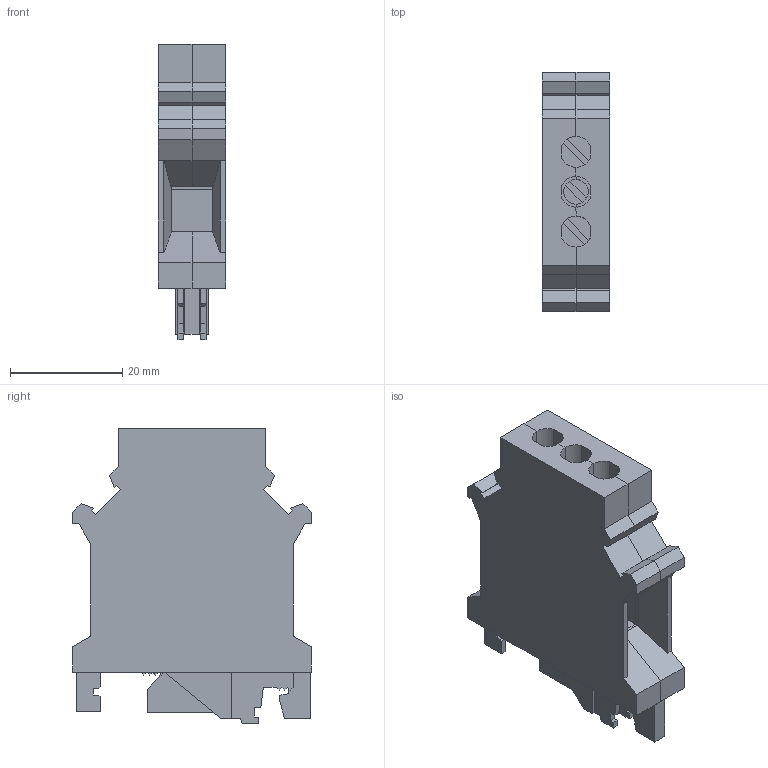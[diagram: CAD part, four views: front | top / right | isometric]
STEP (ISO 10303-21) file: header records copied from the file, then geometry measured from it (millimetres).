
FILE_DESCRIPTION(('Creo Elements/Direct Modeling STEP Export'),'2;1');
FILE_NAME('C:/temp/JobSpoolerServerData/JobServer Files/7edf2d4e-bc57-4919-b6a5-5b7945869da3/work/output/model.stp','2020-09-08T 0:18:48',(''),(''),'Creo Elements/Direct Modeling STEP processor for AP214 (Solid Model)','Creo Elements/Direct Modeling 20.1A 29-Sep-2018 (C) Parametric Technology GmbH','');
FILE_SCHEMA(('AUTOMOTIVE_DESIGN { 1 0 10303 214 1 1 1 1 }'));
Length unit declared in the file: millimetre
Products named in the file (2): USLKG_16_N-select
Assembly tree (1 placements, depth 2):
  USLKG_16_N-select
    USLKG_16_N-select
Bounding box: 12 x 42.5 x 52.6 mm (x, y, z)
Volume: 15787 mm3; surface area: 7589.1 mm2
Topology: 1 solids, 1 shells, 261 faces, 676 edges, 421 vertices
Faces by surface type: plane 244, cylinder 17
Entity records: 9096 total; most frequent: ORIENTED_EDGE 1352, CARTESIAN_POINT 1194, DIRECTION 985, EDGE_CURVE 676, VECTOR 561, LINE 561, VERTEX_POINT 421, EDGE_LOOP 265
